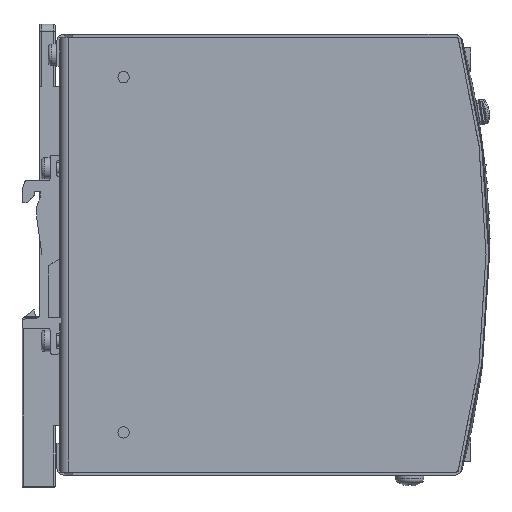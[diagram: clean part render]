
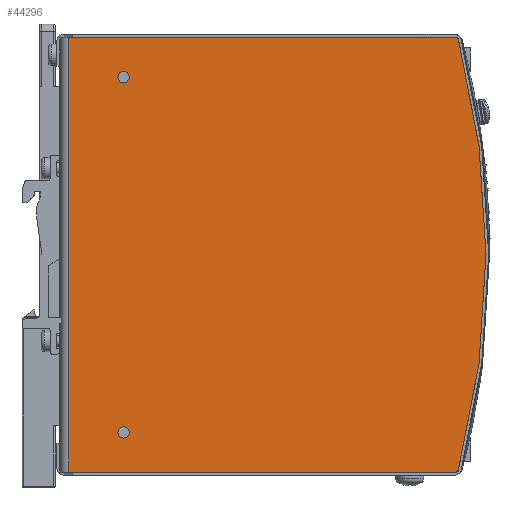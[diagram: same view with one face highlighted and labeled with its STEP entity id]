
A CAD part, front view. The second image highlights one B-rep face of the part: STEP entity #44296.
In plain terms, the highlighted planar face has unit normal (0, -1, 0).
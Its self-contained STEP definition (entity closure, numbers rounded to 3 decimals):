
#1378=FACE_BOUND('',#6291,.T.);
#1379=FACE_BOUND('',#6292,.T.);
#1978=PLANE('',#47013);
#3937=FACE_OUTER_BOUND('',#6290,.T.);
#6290=EDGE_LOOP('',(#30943,#30944,#30945,#30946,#30947,#30948));
#6291=EDGE_LOOP('',(#30949));
#6292=EDGE_LOOP('',(#30950));
#9246=LINE('',#60694,#14217);
#9247=LINE('',#60696,#14218);
#9248=LINE('',#60697,#14219);
#14217=VECTOR('',#49946,10.);
#14218=VECTOR('',#49947,10.);
#14219=VECTOR('',#49948,10.);
#19176=CIRCLE('',#46999,0.5);
#19179=CIRCLE('',#47003,240.);
#19183=CIRCLE('',#47009,0.5);
#19185=CIRCLE('',#47014,1.6);
#19186=CIRCLE('',#47015,1.6);
#19944=VERTEX_POINT('',#60652);
#19945=VERTEX_POINT('',#60653);
#19949=VERTEX_POINT('',#60663);
#19955=VERTEX_POINT('',#60679);
#19959=VERTEX_POINT('',#60693);
#19960=VERTEX_POINT('',#60695);
#19961=VERTEX_POINT('',#60698);
#19962=VERTEX_POINT('',#60700);
#24326=EDGE_CURVE('',#19944,#19945,#19176,.T.);
#24332=EDGE_CURVE('',#19944,#19949,#19179,.T.);
#24339=EDGE_CURVE('',#19955,#19949,#19183,.T.);
#24346=EDGE_CURVE('',#19955,#19959,#9246,.T.);
#24347=EDGE_CURVE('',#19959,#19960,#9247,.T.);
#24348=EDGE_CURVE('',#19945,#19960,#9248,.T.);
#24349=EDGE_CURVE('',#19961,#19961,#19185,.T.);
#24350=EDGE_CURVE('',#19962,#19962,#19186,.T.);
#30943=ORIENTED_EDGE('',*,*,#24326,.F.);
#30944=ORIENTED_EDGE('',*,*,#24332,.T.);
#30945=ORIENTED_EDGE('',*,*,#24339,.F.);
#30946=ORIENTED_EDGE('',*,*,#24346,.T.);
#30947=ORIENTED_EDGE('',*,*,#24347,.T.);
#30948=ORIENTED_EDGE('',*,*,#24348,.F.);
#30949=ORIENTED_EDGE('',*,*,#24349,.T.);
#30950=ORIENTED_EDGE('',*,*,#24350,.T.);
#44296=ADVANCED_FACE('',(#3937,#1378,#1379),#1978,.T.);
#46999=AXIS2_PLACEMENT_3D('',#60654,#49905,#49906);
#47003=AXIS2_PLACEMENT_3D('',#60665,#49916,#49917);
#47009=AXIS2_PLACEMENT_3D('',#60680,#49931,#49932);
#47013=AXIS2_PLACEMENT_3D('',#60692,#49944,#49945);
#47014=AXIS2_PLACEMENT_3D('',#60699,#49949,#49950);
#47015=AXIS2_PLACEMENT_3D('',#60701,#49951,#49952);
#49905=DIRECTION('center_axis',(0.,1.,0.));
#49906=DIRECTION('ref_axis',(0.611,0.,-0.792));
#49916=DIRECTION('center_axis',(0.,-1.,0.));
#49917=DIRECTION('ref_axis',(0.967,0.,0.255));
#49931=DIRECTION('center_axis',(0.,1.,0.));
#49932=DIRECTION('ref_axis',(0.611,0.,0.792));
#49944=DIRECTION('center_axis',(0.,-1.,0.));
#49945=DIRECTION('ref_axis',(0.,0.,-1.));
#49946=DIRECTION('',(-1.,0.,0.));
#49947=DIRECTION('',(0.,0.,-1.));
#49948=DIRECTION('',(-1.,0.,0.));
#49949=DIRECTION('center_axis',(0.,1.,0.));
#49950=DIRECTION('ref_axis',(-1.,0.,0.));
#49951=DIRECTION('center_axis',(0.,1.,0.));
#49952=DIRECTION('ref_axis',(-1.,0.,0.));
#60652=CARTESIAN_POINT('',(112.177,-24.,-60.777));
#60653=CARTESIAN_POINT('',(111.693,-24.,-61.15));
#60654=CARTESIAN_POINT('Origin',(111.693,-24.,-60.65));
#60663=CARTESIAN_POINT('',(112.177,-24.,60.777));
#60665=CARTESIAN_POINT('Origin',(-120.,-24.,0.));
#60679=CARTESIAN_POINT('',(111.693,-24.,61.15));
#60680=CARTESIAN_POINT('Origin',(111.693,-24.,60.65));
#60692=CARTESIAN_POINT('Origin',(130.,-24.,-61.15));
#60693=CARTESIAN_POINT('',(2.5,-24.,61.15));
#60694=CARTESIAN_POINT('',(130.,-24.,61.15));
#60695=CARTESIAN_POINT('',(2.5,-24.,-61.15));
#60696=CARTESIAN_POINT('',(2.5,-24.,-61.15));
#60697=CARTESIAN_POINT('',(130.,-24.,-61.15));
#60698=CARTESIAN_POINT('',(19.6,-24.,-50.));
#60699=CARTESIAN_POINT('Origin',(18.,-24.,-50.));
#60700=CARTESIAN_POINT('',(19.6,-24.,50.));
#60701=CARTESIAN_POINT('Origin',(18.,-24.,50.));
